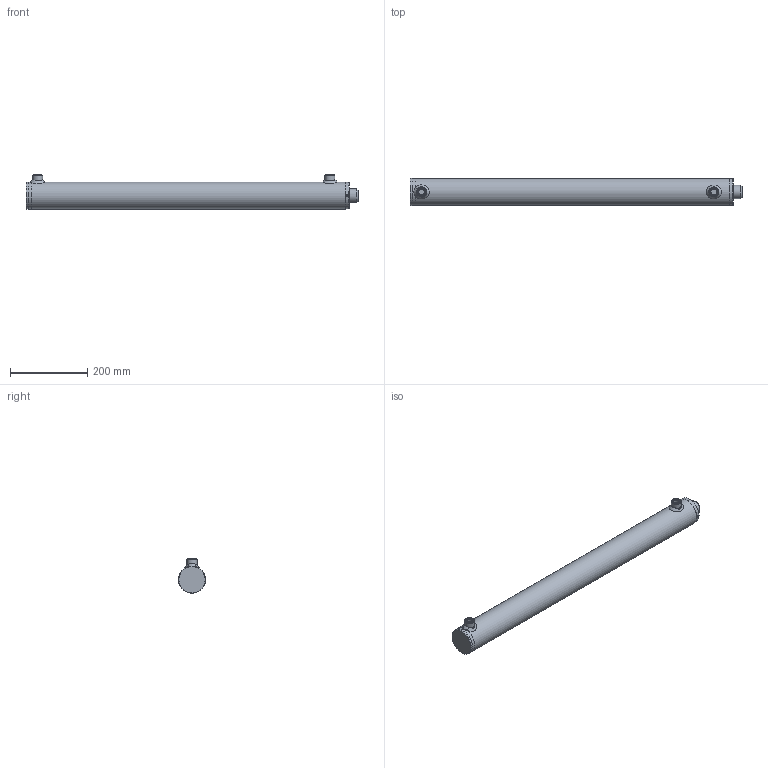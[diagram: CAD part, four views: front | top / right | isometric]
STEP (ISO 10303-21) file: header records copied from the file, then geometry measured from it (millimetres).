
FILE_DESCRIPTION( ( 'Unknown' ), '1' );
FILE_NAME( 'E:/LIBRERIA_3d/CILINDRI/HM0/HM03350700.stp', 'Unknown', ( 'Unknown' ), ( 'Unknown' ), 'PSStep 17.0.49', 'Unknown', ' ' );
FILE_SCHEMA( ( 'AUTOMOTIVE_DESIGN { 1 0 10303 214 1 1 1 1 }' ) );
Length unit declared in the file: millimetre
Products named in the file (18): CG07006035; CT00060020; STL3500700-oa4; Saldatura d'angolo 1-oa2; CBS0600000; MAT_PRIMA_TUBO_FT07006000-oa3; Assem1; Saldatura con preparazione 1-oa0; Saldatura d'angolo 1-oa1; CF00060070; CDA0002015; APG0600000; SBL3530700
Assembly tree (15 placements, depth 3):
  Saldatura d'angolo 1-oa2
  Saldatura d'angolo 1-oa2
  Assem1
    Saldatura con preparazione 1-oa0
    Saldatura con preparazione 1-oa0
    CF00060070
    CBS0600000
    CDA0002015
    APG0600000  x2
    SBL3530700
    CT00060020
      CT00060020
    STL3500700-oa4
      CBS0600000
      MAT_PRIMA_TUBO_FT07006000-oa3
    CG07006035
      CG07006035
  Saldatura d'angolo 1-oa1
  Saldatura d'angolo 1-oa1
Bounding box: 860 x 70 x 89 mm (x, y, z)
Volume: 1860641.8 mm3; surface area: 508897.5 mm2
Topology: 16 solids, 16 shells, 202 faces, 412 edges, 257 vertices
Faces by surface type: cylinder 59, plane 58, torus 38, cone 33, bspline 14
Full cylindrical faces by diameter (mm): 4.25 x1, 5 x2, 6 x2, 7 x2, 14.95 x2, 16 x2, 16.6 x2, 19.4 x1, 20 x5, 22 x2, 24.5 x1, 26 x4, 30 x1, 35 x4, 37 x1, 38 x1, 43.6 x1, 44 x1, 45 x1, 55 x1, 55.39 x2, 58.65 x2, 59.9 x1, 60 x1, 60.3 x1, 60.5 x1, 60.6 x1, 61 x1, 62 x3, 62.376 x1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
Entity records: 8276 total; most frequent: CARTESIAN_POINT 3529, DIRECTION 722, ORIENTED_EDGE 434, AXIS2_PLACEMENT_3D 349, EDGE_LOOP 344, FACE_OUTER_BOUND 275, EDGE_CURVE 217, VERTEX_POINT 196
